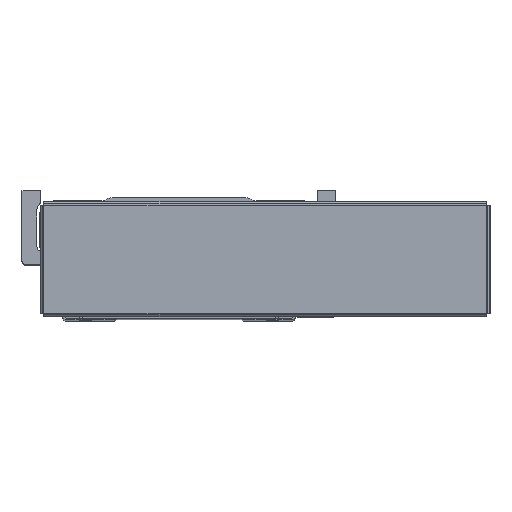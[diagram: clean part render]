
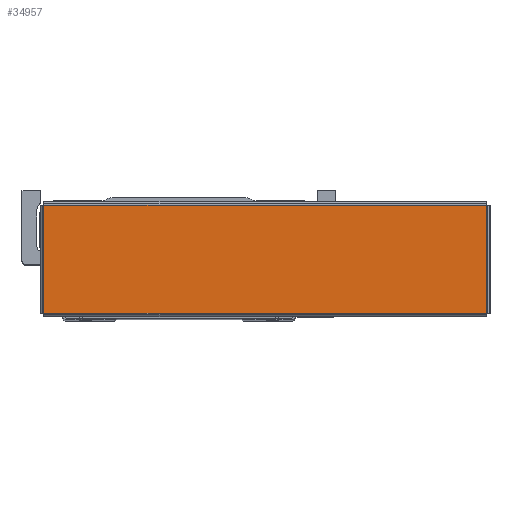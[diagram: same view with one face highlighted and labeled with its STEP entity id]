
A CAD part, top view. The second image highlights one B-rep face of the part: STEP entity #34957.
In plain terms, the highlighted planar face has unit normal (0, 0, 1) as drawn and (0, -1, 0) by its records, which use the part's own axes.
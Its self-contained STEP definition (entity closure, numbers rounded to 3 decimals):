
#2246 = CARTESIAN_POINT ( 'NONE',  ( -128.363, -1.2, -31.363 ) ) ;
#2287 = CARTESIAN_POINT ( 'NONE',  ( 128.363, -1.2, -31.363 ) ) ;
#4302 = AXIS2_PLACEMENT_3D ( 'NONE', #48532, #48534, #48536 ) ;
#8376 = VERTEX_POINT ( 'NONE', #2246 ) ;
#8485 = VERTEX_POINT ( 'NONE', #2287 ) ;
#8520 = VERTEX_POINT ( 'NONE', #51441 ) ;
#8547 = VERTEX_POINT ( 'NONE', #51455 ) ;
#12575 = LINE ( 'NONE', #44755, #12626 ) ;
#12587 = LINE ( 'NONE', #44882, #12599 ) ;
#12589 = LINE ( 'NONE', #44946, #12593 ) ;
#12590 = LINE ( 'NONE', #44832, #12602 ) ;
#12593 = VECTOR ( 'NONE', #44948, 1000. ) ;
#12599 = VECTOR ( 'NONE', #44892, 1000. ) ;
#12602 = VECTOR ( 'NONE', #44847, 1000. ) ;
#12626 = VECTOR ( 'NONE', #44780, 1000. ) ;
#20528 = EDGE_CURVE ( 'NONE', #8485, #8547, #12590, .T. ) ;
#20533 = EDGE_CURVE ( 'NONE', #8376, #8485, #12575, .T. ) ;
#20581 = EDGE_CURVE ( 'NONE', #8520, #8376, #12587, .T. ) ;
#20586 = EDGE_CURVE ( 'NONE', #8547, #8520, #12589, .T. ) ;
#29309 = EDGE_LOOP ( 'NONE', ( #41958, #42010, #42070, #42018 ) ) ;
#34957 = ADVANCED_FACE ( 'NONE', ( #45168 ), #48529, .F. ) ;
#41958 = ORIENTED_EDGE ( 'NONE', *, *, #20586, .T. ) ;
#42010 = ORIENTED_EDGE ( 'NONE', *, *, #20581, .T. ) ;
#42018 = ORIENTED_EDGE ( 'NONE', *, *, #20528, .T. ) ;
#42070 = ORIENTED_EDGE ( 'NONE', *, *, #20533, .T. ) ;
#44755 = CARTESIAN_POINT ( 'NONE',  ( -128.393, -1.2, -31.363 ) ) ;
#44780 = DIRECTION ( 'NONE',  ( 1., 0., 0. ) ) ;
#44832 = CARTESIAN_POINT ( 'NONE',  ( 128.363, -1.2, -31.393 ) ) ;
#44847 = DIRECTION ( 'NONE',  ( 0., 0., 1. ) ) ;
#44882 = CARTESIAN_POINT ( 'NONE',  ( -128.363, -1.2, 31.393 ) ) ;
#44892 = DIRECTION ( 'NONE',  ( 0., 0., -1. ) ) ;
#44946 = CARTESIAN_POINT ( 'NONE',  ( 128.393, -1.2, 31.363 ) ) ;
#44948 = DIRECTION ( 'NONE',  ( -1., 0., 0. ) ) ;
#45168 = FACE_OUTER_BOUND ( 'NONE', #29309, .T. ) ;
#48529 = PLANE ( 'NONE',  #4302 ) ;
#48532 = CARTESIAN_POINT ( 'NONE',  ( 0., -1.2, 0. ) ) ;
#48534 = DIRECTION ( 'NONE',  ( 0., 1., 0. ) ) ;
#48536 = DIRECTION ( 'NONE',  ( 0., 0., 1. ) ) ;
#51441 = CARTESIAN_POINT ( 'NONE',  ( -128.363, -1.2, 31.363 ) ) ;
#51455 = CARTESIAN_POINT ( 'NONE',  ( 128.363, -1.2, 31.363 ) ) ;
